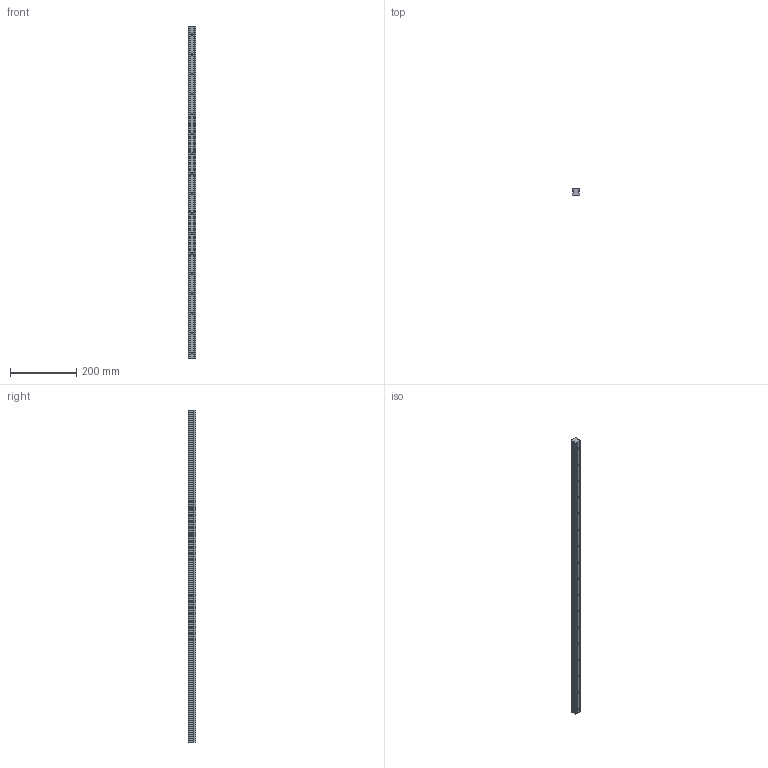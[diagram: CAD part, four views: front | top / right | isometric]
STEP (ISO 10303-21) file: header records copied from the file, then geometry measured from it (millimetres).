
FILE_DESCRIPTION (( 'STEP AP214' ), '1' );
FILE_NAME ('7.0032 Lineaarijohde HTR25T-C.STEP', '2026-03-31T11:21:40', ( '' ), ( '' ), 'SwSTEP 2.0', 'SolidWorks 2025', '' );
FILE_SCHEMA (( 'AUTOMOTIVE_DESIGN' ));
Length unit declared in the file: millimetre
Products named in the file (1): 7.0032 Lineaarijohde HTR25T-C
Bounding box: 23 x 22 x 1000 mm (x, y, z)
Volume: 436428.8 mm3; surface area: 96506.6 mm2
Topology: 1 solids, 1 shells, 102 faces, 266 edges, 149 vertices
Faces by surface type: cylinder 38, cone 34, plane 30
Entity records: 2879 total; most frequent: DIRECTION 514, CARTESIAN_POINT 484, ORIENTED_EDGE 464, EDGE_CURVE 232, AXIS2_PLACEMENT_3D 179, VECTOR 156, LINE 156, VERTEX_POINT 149
